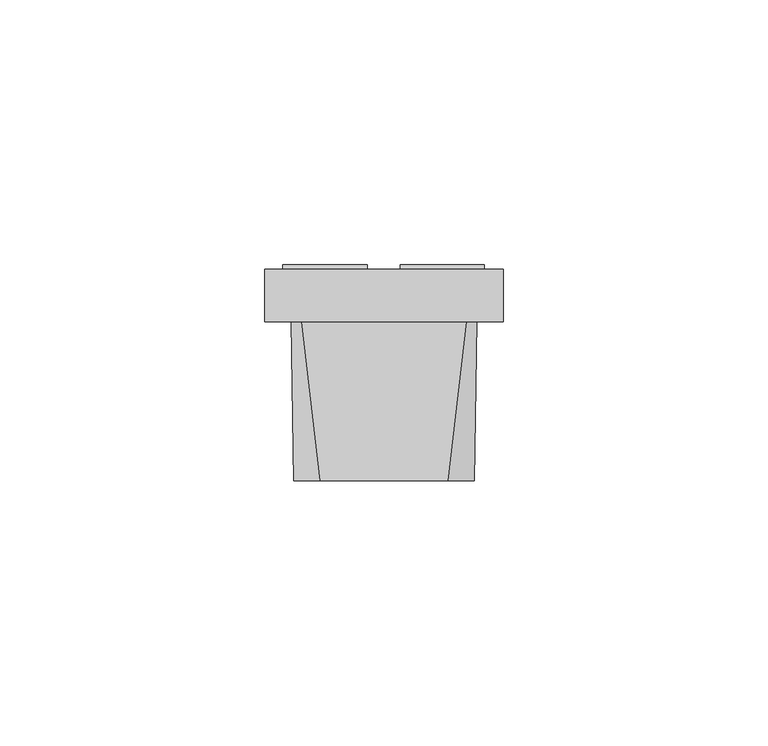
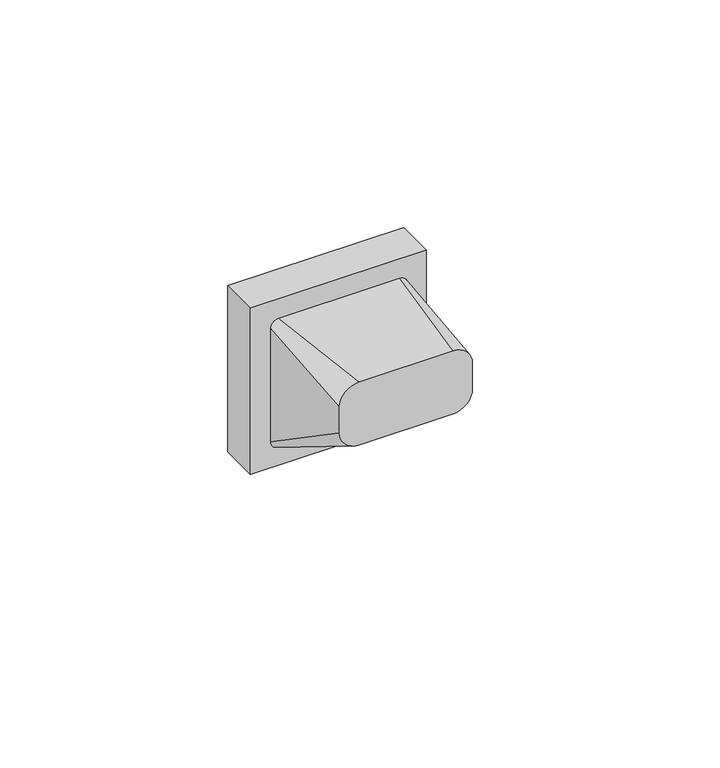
"""IFC4 building model written with IfcOpenShell, lengths in millimetres: proxy geometry, IEK_Skandy_Механизм розетки информационной : 2хRJ45 к5E_SK-K03B."""

import ifcopenshell
import ifcopenshell.guid

model = None  # the IFC model being written
_history = None  # IfcOwnerHistory: only IFC2X3 demands one
_inside = {}  # id of a spatial element -> (the spatial element, [elements in it])
_under = {}  # id of a project, library or spatial element -> (it, [spatial elements below it])
_declared = {}  # id of a project -> (the project, [libraries it declares])
_typed = {}  # id of a type object -> (the type object, [elements of that type])
_made_of = {}  # id of a material, layer set ... -> (it, [elements and type objects made of it])


def new_model(schema):
    """Start an empty IFC model of exactly this schema.

    Asked for "IFC4X3", IfcOpenShell would pick the latest addendum, in which some entities
    have other attributes; the version numbers below select the first issue.
    IFC2X3 requires an IfcOwnerHistory on every rooted entity: one is made here for all.
    """
    global model, _history
    if schema == "IFC4X3":
        model = ifcopenshell.file(schema_version=(4, 3, 0, 0))
    else:
        model = ifcopenshell.file(schema=schema)
    _inside.clear()
    _under.clear()
    _declared.clear()
    _typed.clear()
    _made_of.clear()
    _history = None
    if model.schema == "IFC2X3":
        org = make("IfcOrganization", Name="unknown")
        user = make(
            "IfcPersonAndOrganization",
            ThePerson=make("IfcPerson", FamilyName="unknown"),
            TheOrganization=org,
        )
        app = make(
            "IfcApplication",
            ApplicationDeveloper=org,
            Version="unknown",
            ApplicationFullName="unknown",
            ApplicationIdentifier="unknown",
        )
        _history = make(
            "IfcOwnerHistory",
            OwningUser=user,
            OwningApplication=app,
            ChangeAction="ADDED",
            CreationDate=0,
        )
    return model


def make(cls, **values):
    """One entity of the class cls with the attributes given. An attribute that is None is left unset."""
    return model.create_entity(
        cls, **{name: value for name, value in values.items() if value is not None}
    )


def rooted(cls, **values):
    """An entity with a GlobalId (a new one), such as an element, a storey or a relation."""
    return make(cls, GlobalId=ifcopenshell.guid.new(), OwnerHistory=_history, **values)


def si_unit(unit_type, name, prefix=None):
    """IfcSIUnit, for example si_unit("LENGTHUNIT", "METRE", prefix="MILLI")."""
    return make("IfcSIUnit", UnitType=unit_type, Prefix=prefix, Name=name)


def assignment(units):
    """IfcUnitAssignment: the units of a project."""
    return None if units is None else make("IfcUnitAssignment", Units=units)


def point(xyz):
    """IfcCartesianPoint."""
    return None if xyz is None else make("IfcCartesianPoint", Coordinates=xyz)


def direction(xyz):
    """IfcDirection."""
    return None if xyz is None else make("IfcDirection", DirectionRatios=xyz)


def frame(location, z_axis=None, x_axis=None):
    """IfcAxis2Placement3D, a coordinate frame: its origin and axes. An axis left out is left unset."""
    return make(
        "IfcAxis2Placement3D",
        Location=point(location),
        Axis=direction(z_axis),
        RefDirection=direction(x_axis),
    )


def origin():
    """The frame at (0, 0, 0) with its axes left unset."""
    return frame((0.0, 0.0, 0.0))


def place(relative_to, where):
    """IfcLocalPlacement: puts the frame where relative to a parent placement (None: the world)."""
    return make(
        "IfcLocalPlacement", PlacementRelTo=relative_to, RelativePlacement=where
    )


def context(
    kind, dimensions, precision=None, world=None, true_north=None, identifier=None
):
    """IfcGeometricRepresentationContext, for example the 3D "Model" context."""
    return make(
        "IfcGeometricRepresentationContext",
        ContextIdentifier=identifier,
        ContextType=kind,
        CoordinateSpaceDimension=dimensions,
        Precision=precision,
        WorldCoordinateSystem=world,
        TrueNorth=true_north,
    )


def project(units=None, contexts=None):
    """IfcProject with its units and contexts."""
    return rooted(
        "IfcProject",
        Name="project",
        RepresentationContexts=contexts,
        UnitsInContext=assignment(units),
    )


def spatial(cls, under=None, at=None, **own):
    """A site, building, storey or space (cls), placed at a placement, below another one or the project."""
    s = rooted(cls, ObjectPlacement=at, **own)
    if under is not None:
        _under.setdefault(under.id(), (under, []))[1].append(s)
    return s


def polyline(points):
    """IfcPolyline through the points."""
    return make("IfcPolyline", Points=[point(p) for p in points])


def circle_curve(where, radius):
    """IfcCircle in the frame where."""
    return make("IfcCircle", Position=where, Radius=radius)


def outline(outer, holes=None, kind="AREA"):
    """IfcArbitraryClosedProfileDef: a profile drawn as a closed curve; with holes, ...WithVoids."""
    if holes is None:
        return make("IfcArbitraryClosedProfileDef", ProfileType=kind, OuterCurve=outer)
    return make(
        "IfcArbitraryProfileDefWithVoids",
        ProfileType=kind,
        OuterCurve=outer,
        InnerCurves=holes,
    )


def extrude(swept, where, along, depth):
    """IfcExtrudedAreaSolid: the profile swept, set in the frame where, extruded along a direction by depth."""
    return make(
        "IfcExtrudedAreaSolid",
        SweptArea=swept,
        Position=where,
        ExtrudedDirection=direction(along),
        Depth=depth,
    )


def faces_of(points, faces, orient=None, outer=None):
    """IfcFace entities. A face is a list of loops; a loop is a list of indices into points, from 0.

    orient and outer hold one flag for each loop. By default every Orientation is true, the
    first loop of a face is its IfcFaceOuterBound and the others are IfcFaceBound.
    """
    made = []
    for i, loops in enumerate(faces):
        bounds = []
        for j, loop in enumerate(loops):
            is_outer = j == 0 if outer is None else outer[i][j]
            bounds.append(
                make(
                    "IfcFaceOuterBound" if is_outer else "IfcFaceBound",
                    Bound=make("IfcPolyLoop", Polygon=[points[k] for k in loop]),
                    Orientation=True if orient is None else orient[i][j],
                )
            )
        made.append(make("IfcFace", Bounds=bounds))
    return made


def faceted_brep(points, faces, orient=None, outer=None, voids=None):
    """IfcFacetedBrep: a solid bounded by flat faces; with voids (closed shells), ...WithVoids."""
    shared = [point(p) for p in points]
    hull = make("IfcClosedShell", CfsFaces=faces_of(shared, faces, orient, outer))
    if voids is None:
        return make("IfcFacetedBrep", Outer=hull)
    return make(
        "IfcFacetedBrepWithVoids",
        Outer=hull,
        Voids=[
            make(cls, CfsFaces=faces_of(shared, fs, o, b)) for cls, fs, o, b in voids
        ],
    )


def shape(context_of_items, identifier, shape_type, items):
    """IfcShapeRepresentation: the items that make up one representation, for example the "Body"."""
    return make(
        "IfcShapeRepresentation",
        ContextOfItems=context_of_items,
        RepresentationIdentifier=identifier,
        RepresentationType=shape_type,
        Items=items,
    )


def source(mapping_origin, context_of_items, identifier, shape_type, items):
    """IfcRepresentationMap: a shape defined once, which mapped items show again and again."""
    return make(
        "IfcRepresentationMap",
        MappingOrigin=mapping_origin,
        MappedRepresentation=shape(context_of_items, identifier, shape_type, items),
    )


def transform(
    local_origin,
    x_axis=None,
    y_axis=None,
    z_axis=None,
    scale=None,
    scale2=None,
    scale3=None,
    uniform=True,
):
    """IfcCartesianTransformationOperator3D, or its non-uniform kind. x_axis, y_axis, z_axis: its Axis1, 2, 3."""
    if uniform:
        return make(
            "IfcCartesianTransformationOperator3D",
            Axis1=direction(x_axis),
            Axis2=direction(y_axis),
            LocalOrigin=point(local_origin),
            Scale=scale,
            Axis3=direction(z_axis),
        )
    return make(
        "IfcCartesianTransformationOperator3DnonUniform",
        Axis1=direction(x_axis),
        Axis2=direction(y_axis),
        LocalOrigin=point(local_origin),
        Scale=scale,
        Axis3=direction(z_axis),
        Scale2=scale2,
        Scale3=scale3,
    )


def mapped(mapping_source, mapping_target):
    """IfcMappedItem: shows the shape of a source again, moved by a transform."""
    return make(
        "IfcMappedItem", MappingSource=mapping_source, MappingTarget=mapping_target
    )


def made_of(thing, what):
    """Note that an element or type object is made of a material, layer set ...; save() writes the relation."""
    if what is not None:
        _made_of.setdefault(what.id(), (what, []))[1].append(thing)
    return thing


def element(
    cls,
    number,
    at=None,
    inside=None,
    cuts=None,
    type_object=None,
    material=None,
    context=None,
    identifier="Body",
    shape_type=None,
    held_by="IfcProductDefinitionShape",
    body=None,
    shapes=None,
    **own,
):
    """One element of the class cls, such as IfcWall. Its Tag is "e" and its number.

    at: its placement. inside: the storey or other place that contains it. cuts: it is an
    opening in that element (IfcRelVoidsElement). A single representation is given by context,
    identifier, shape_type and body (its items); several are given by shapes. held_by: the class
    of the entity that holds the representations. save() writes the other relations.
    """
    e = rooted(cls, Tag="e%d" % number, ObjectPlacement=at, **own)
    if body is not None:
        shapes = [shape(context, identifier, shape_type, body)]
    if shapes is not None:
        e.Representation = make(held_by, Representations=shapes)
    if inside is not None:
        _inside.setdefault(inside.id(), (inside, []))[1].append(e)
    if cuts is not None:
        rooted(
            "IfcRelVoidsElement", RelatingBuildingElement=cuts, RelatedOpeningElement=e
        )
    if type_object is not None:
        _typed.setdefault(type_object.id(), (type_object, []))[1].append(e)
    return made_of(e, material)


def aggregate(whole, parts):
    """IfcRelAggregates: a whole, such as a stair, and the parts it consists of."""
    return rooted("IfcRelAggregates", RelatingObject=whole, RelatedObjects=parts)


def save(model, path):
    """Write the relations noted so far, then the file.

    IfcRelAggregates (storeys below a building ...), IfcRelContainedInSpatialStructure (elements
    in a storey), IfcRelDefinesByType, IfcRelAssociatesMaterial and IfcRelDeclares: one each for
    every whole, place, type object, material and project.
    """
    for whole, parts in _under.values():
        aggregate(whole, parts)
    for where, things in _inside.values():
        rooted(
            "IfcRelContainedInSpatialStructure",
            RelatedElements=things,
            RelatingStructure=where,
        )
    for kind, things in _typed.values():
        rooted("IfcRelDefinesByType", RelatedObjects=things, RelatingType=kind)
    for what, things in _made_of.values():
        rooted("IfcRelAssociatesMaterial", RelatedObjects=things, RelatingMaterial=what)
    for by, libraries in _declared.values():
        rooted("IfcRelDeclares", RelatingContext=by, RelatedDefinitions=libraries)
    model.write(path)


def plane_surface(at):
    """IfcPlane: the flat surface through the origin of the frame at, square to its z axis."""
    return make("IfcPlane", Position=at)


def spline_surface(u_degree, v_degree, points, u_multiplicities, v_multiplicities, u_knots, v_knots, weights=None):
    """IfcBSplineSurfaceWithKnots; with weights, IfcRationalBSplineSurfaceWithKnots. points: one row for each step in u."""
    own = dict(
        UDegree=u_degree,
        VDegree=v_degree,
        ControlPointsList=[[point(p) for p in row] for row in points],
        SurfaceForm="UNSPECIFIED",
        UClosed=False,
        VClosed=False,
        SelfIntersect=False,
        UMultiplicities=u_multiplicities,
        VMultiplicities=v_multiplicities,
        UKnots=u_knots,
        VKnots=v_knots,
        KnotSpec="UNSPECIFIED",
    )
    if weights is None:
        return make("IfcBSplineSurfaceWithKnots", **own)
    return make("IfcRationalBSplineSurfaceWithKnots", WeightsData=weights, **own)


def advanced_brep(points, edges, surfaces, faces):
    """IfcAdvancedBrep: a solid bounded by faces that lie on surfaces and meet in shared edges.

    An edge is (start, end): straight between two places in points (the first is 0);
    or (start, end, curve); or (start, end, curve, False) where it runs against its curve.
    A face is (place in surfaces, loops), or (place, loops, False) where it looks against
    its surface's normal. A loop lists edges by number (the first is 1), with a minus sign
    where the edge is run from its end to its start. The first loop is the outer one.
    """
    corners = [point(p) for p in points]
    vertices = [make("IfcVertexPoint", VertexGeometry=c) for c in corners]
    made = []
    for start, end, *more in edges:
        made.append(
            make(
                "IfcEdgeCurve",
                EdgeStart=vertices[start],
                EdgeEnd=vertices[end],
                EdgeGeometry=more[0] if more else make("IfcPolyline", Points=[corners[start], corners[end]]),
                SameSense=more[1] if len(more) > 1 else True,
            )
        )
    hull = []
    for where, loops, *sense in faces:
        bounds = []
        for j, loop in enumerate(loops):
            ring = [make("IfcOrientedEdge", EdgeElement=made[abs(k) - 1], Orientation=k > 0) for k in loop]
            bounds.append(
                make(
                    "IfcFaceOuterBound" if j == 0 else "IfcFaceBound",
                    Bound=make("IfcEdgeLoop", EdgeList=ring),
                    Orientation=True,
                )
            )
        hull.append(make("IfcAdvancedFace", Bounds=bounds, FaceSurface=surfaces[where], SameSense=sense[0] if sense else True))
    return make("IfcAdvancedBrep", Outer=make("IfcClosedShell", CfsFaces=hull))


def electrical_fixtures_795b5cfc(model_context):
    return source(origin(), model_context, "Body", "SolidModel", [
        extrude(outline(polyline([(0.0, -2.0472767), (0.0, 0.0), (15.9203523, 0.0), (15.9203523, -2.0472767), (0.0, -2.0472767)])), frame((-3.1997345, 8.4780014, 9.3671478), z_axis=(0.0, 0.3420201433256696, 0.9396926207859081), x_axis=(-1.0, 0.0, 0.0)), (0.0, 0.0, 1.0), 1.1350324),
        extrude(outline(polyline([(0.0, -2.0472767), (0.0, 0.0), (15.9203523, 0.0), (15.9203523, -2.0472767), (0.0, -2.0472767)])), frame((3.0434845, 10.4018122, 8.6669379), z_axis=(0.0, 0.3420201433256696, 0.9396926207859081), x_axis=(1.0, 0.0, 0.0)), (0.0, 0.0, 1.0), 1.1350324),
        faceted_brep([(-22.5, 10.0, 22.5), (22.5, 10.0, 22.5), (22.5, 10.0, -22.5), (-22.5, 10.0, -22.5), (20.5, 10.0, -10.479217), (20.5, 10.0, 10.625), (18.9638368, 10.0, 10.625), (3.0434845, 10.0, 10.625), (-3.1997345, 10.0, 10.625), (-19.1200868, 10.0, 10.625), (-20.5, 10.0, 10.625), (-20.5, 10.0, -10.479217), (-22.5, 0.0, 22.5), (-22.5, 0.0, -22.5), (22.5, 0.0, -22.5), (22.5, 0.0, 22.5), (20.5, 4.3684205, -4.8476375), (-20.5, 4.3684205, -4.8476375), (-19.1200868, 5.1767352, -2.626811), (-3.1997345, 5.1767352, -2.626811), (3.0434845, 5.1767352, -2.626811), (18.9638368, 5.1767352, -2.626811), (18.9638368, 4.2370426, -2.2847909), (3.0434845, 4.2370426, -2.2847909), (3.0434845, 9.0603074, 10.9670201), (18.9638368, 9.0603074, 10.9670201), (-19.1200868, 4.2370426, -2.2847909), (-19.1200868, 9.0603074, 10.9670201), (-3.1997345, 9.0603074, 10.9670201), (-3.1997345, 4.2370426, -2.2847909)], [[[0, 1, 2, 3], [4, 5, 6, 7, 8, 9, 10, 11]], [[12, 13, 14, 15]], [[0, 3, 13, 12]], [[3, 2, 14, 13]], [[2, 1, 15, 14]], [[1, 0, 12, 15]], [[16, 5, 4]], [[17, 11, 10]], [[16, 4, 11, 17]], [[5, 16, 17, 10, 9, 18, 19, 8, 7, 20, 21, 6]], [[22, 23, 24, 25]], [[22, 25, 6, 21]], [[25, 24, 7, 6]], [[24, 23, 20, 7]], [[23, 22, 21, 20]], [[26, 27, 28, 29]], [[27, 26, 18, 9]], [[28, 27, 9, 8]], [[29, 28, 8, 19]], [[26, 29, 19, 18]]]),
        advanced_brep(
        [(-12.0, -30.0, 17.0), (-17.0, -30.0, 12.0), (-17.0, -30.0, 5.0), (-12.0, -30.0, 0.0), (12.0, -30.0, 0.0), (17.0, -30.0, 5.0), (17.0, -30.0, 12.0), (12.0, -30.0, 17.0), (-15.5, 0.0, 17.5), (15.5, 0.0, 17.5), (17.5, 0.0, 15.5), (17.5, 0.0, -15.5), (15.5, 0.0, -17.5), (-15.5, 0.0, -17.5), (-17.5, 0.0, -15.5), (-17.5, 0.0, 15.5)],
        [
            (0, 1, circle_curve(frame((-12.0, -30.0, 12.0), z_axis=(0.0, -1.0, 0.0), x_axis=(1.0, 0.0, 0.0)), 5.0)),
            (1, 2),
            (2, 3, circle_curve(frame((-12.0, -30.0, 5.0), z_axis=(0.0, -1.0, 0.0), x_axis=(1.0, 0.0, 0.0)), 5.0)),
            (3, 4),
            (4, 5, circle_curve(frame((12.0, -30.0, 5.0), z_axis=(0.0, -1.0, 0.0), x_axis=(1.0, 0.0, 0.0)), 5.0)),
            (5, 6),
            (6, 7, circle_curve(frame((12.0, -30.0, 12.0), z_axis=(0.0, -1.0, 0.0), x_axis=(1.0, 0.0, 0.0)), 5.0)),
            (7, 0),
            (8, 9),
            (9, 10, circle_curve(frame((15.5, 0.0, 15.5), z_axis=(0.0, 1.0, 0.0), x_axis=(1.0, 0.0, 0.0)), 2.0)),
            (10, 11),
            (11, 12, circle_curve(frame((15.5, 0.0, -15.5), z_axis=(0.0, 1.0, 0.0), x_axis=(1.0, 0.0, 0.0)), 2.0)),
            (12, 13),
            (13, 14, circle_curve(frame((-15.5, 0.0, -15.5), z_axis=(0.0, 1.0, 0.0), x_axis=(1.0, 0.0, 0.0)), 2.0)),
            (14, 15),
            (15, 8, circle_curve(frame((-15.5, 0.0, 15.5), z_axis=(0.0, 1.0, 0.0), x_axis=(1.0, 0.0, 0.0)), 2.0)),
            (8, 0),
            (7, 9),
            (6, 10),
            (5, 11),
            (4, 12),
            (3, 13),
            (2, 14),
            (1, 15),
        ],
        [
            plane_surface(frame((0.0, -30.0, 8.5), z_axis=(0.0, -1.0, 0.0), x_axis=(-1.0, 0.0, 0.0))),
            plane_surface(frame((0.0, 0.0, 0.0), z_axis=(0.0, 1.0, 0.0), x_axis=(-1.0, 0.0, 0.0))),
            plane_surface(frame((0.0, 0.0, 17.5), z_axis=(0.0, -0.01666435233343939, 0.9998611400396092), x_axis=(-1.0, 0.0, 0.0))),
            spline_surface(2, 1, [[(17.5, 0.0, 15.5), (17.0, -30.0, 12.0)], [(17.5, 0.0, 17.5), (17.0, -30.0, 17.0)], [(15.5, 0.0, 17.5), (12.0, -30.0, 17.0)]], [3, 3], [2, 2], [0.0, 1.0], [0.0, 1.0], weights=[[1.0, 1.0], [0.7071067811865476, 0.7071067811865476], [1.0, 1.0]]),
            plane_surface(frame((17.5, 0.0, 0.0), z_axis=(0.9998611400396, -0.016664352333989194, 0.0), x_axis=(0.0, 0.0, 1.0))),
            spline_surface(2, 1, [[(15.5, 0.0, -17.5), (12.0, -30.0, 0.0)], [(17.5, 0.0, -17.5), (17.0, -30.0, 0.0)], [(17.5, 0.0, -15.5), (17.0, -30.0, 5.0)]], [3, 3], [2, 2], [0.0, 1.0], [0.0, 1.0], weights=[[1.0, 1.0], [0.7071067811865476, 0.7071067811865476], [1.0, 1.0]]),
            plane_surface(frame((0.0, 0.0, -17.5), z_axis=(0.0, -0.5038710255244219, -0.8637789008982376), x_axis=(1.0, 0.0, 0.0))),
            spline_surface(2, 1, [[(-17.5, 0.0, -15.5), (-17.0, -30.0, 5.0)], [(-17.5, 0.0, -17.5), (-17.0, -30.0, 0.0)], [(-15.5, 0.0, -17.5), (-12.0, -30.0, 0.0)]], [3, 3], [2, 2], [0.0, 1.0], [0.0, 1.0], weights=[[1.0, 1.0], [0.7071067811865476, 0.7071067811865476], [1.0, 1.0]]),
            plane_surface(frame((-17.5, 0.0, 0.0), z_axis=(-0.9998611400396, -0.016664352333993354, 0.0), x_axis=(0.0, 0.0, -1.0))),
            spline_surface(2, 1, [[(-15.5, 0.0, 17.5), (-12.0, -30.0, 17.0)], [(-17.5, 0.0, 17.5), (-17.0, -30.0, 17.0)], [(-17.5, 0.0, 15.5), (-17.0, -30.0, 12.0)]], [3, 3], [2, 2], [0.0, 1.0], [0.0, 1.0], weights=[[1.0, 1.0], [0.7071067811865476, 0.7071067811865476], [1.0, 1.0]]),
        ],
        [
            (0, [[1, 2, 3, 4, 5, 6, 7, 8]]),
            (1, [[9, 10, 11, 12, 13, 14, 15, 16]]),
            (2, [[-9, 17, -8, 18]]),
            (3, [[-10, -18, -7, 19]]),
            (4, [[-11, -19, -6, 20]]),
            (5, [[-12, -20, -5, 21]]),
            (6, [[-13, -21, -4, 22]]),
            (7, [[-14, -22, -3, 23]]),
            (8, [[-15, -23, -2, 24]]),
            (9, [[-16, -24, -1, -17]]),
        ],
    ),
    ])


if __name__ == "__main__":
    model = new_model("IFC4")
    model_context = context("Model", 3, world=origin())
    ifc_project = project(units=[si_unit("LENGTHUNIT", "METRE", prefix="MILLI")], contexts=[model_context])
    site = spatial("IfcSite", under=ifc_project)
    building = spatial("IfcBuilding", under=site)
    placement = place(None, origin())
    electrical_fixtures_shape = electrical_fixtures_795b5cfc(model_context)
    element("IfcBuildingElementProxy", 1, Name="IEK_Skandy_Механизм розетки информационной : 2хRJ45 к5E_SK-K03B", ObjectType="IEK_Skandy_Механизм розетки информационной : 2хRJ45 к5E_SK-K03B", at=placement, inside=building, context=model_context, shape_type="MappedRepresentation", body=[
        mapped(electrical_fixtures_shape, transform((0.0, 0.0, 0.0), x_axis=(1.0, 0.0, 0.0), y_axis=(0.0, 1.0, 0.0), z_axis=(0.0, 0.0, 1.0))),
    ])
    save(model, "model.ifc")
